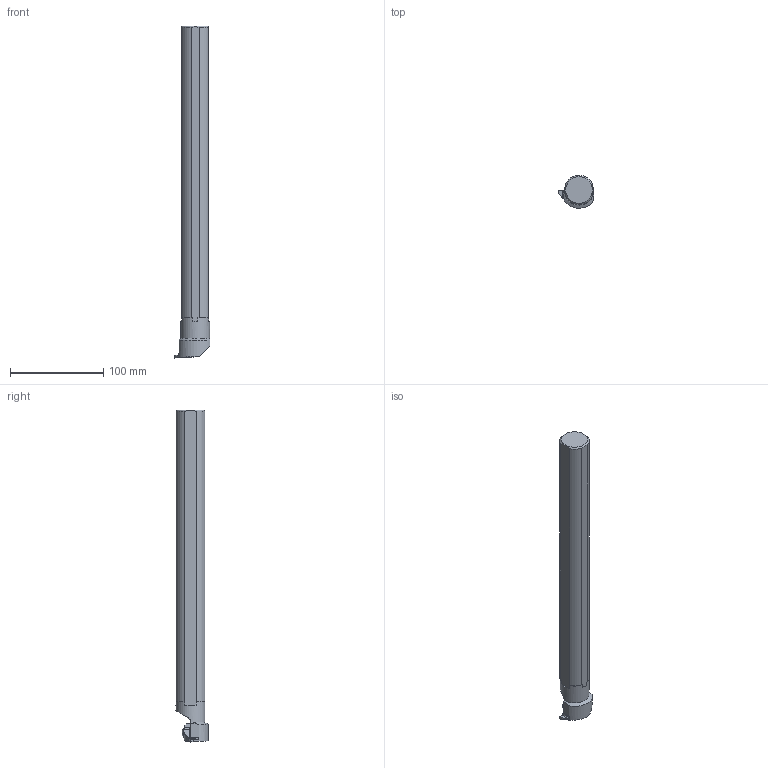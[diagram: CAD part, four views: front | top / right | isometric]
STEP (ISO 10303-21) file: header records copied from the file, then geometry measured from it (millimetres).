
FILE_DESCRIPTION(/* description */ (''),/* implementation_level */ '2;1');
FILE_NAME(/* name */ 'A20NER3_GTM.stp',/* time_stamp */ '2017-07-12T18:31:43+05:00',/* author */ (''),/* organization */ (''),/* preprocessor_version */ 'ST-DEVELOPER v15',/* originating_system */ 'SIEMENS PLM Software NX 9.0',/* authorisation */ '');
FILE_SCHEMA (('AUTOMOTIVE_DESIGN { 1 0 10303 214 3 1 1 1 }'));
Length unit declared in the file: millimetre
Products named in the file (1): A20NER3_GTM
Bounding box: 37.78 x 34.51 x 355.6 mm (x, y, z)
Volume: 260781.2 mm3; surface area: 37805.4 mm2
Topology: 4 solids, 4 shells, 148 faces, 418 edges, 288 vertices
Faces by surface type: plane 77, cylinder 62, bspline 5, cone 4
Full cylindrical faces by diameter (mm): 4.826 x1, 5.791 x1, 8.992 x1, 10.008 x1, 31.102 x1
Entity records: 5029 total; most frequent: CARTESIAN_POINT 1056, DIRECTION 827, ORIENTED_EDGE 800, EDGE_CURVE 400, AXIS2_PLACEMENT_3D 295, VERTEX_POINT 269, LINE 237, VECTOR 237
